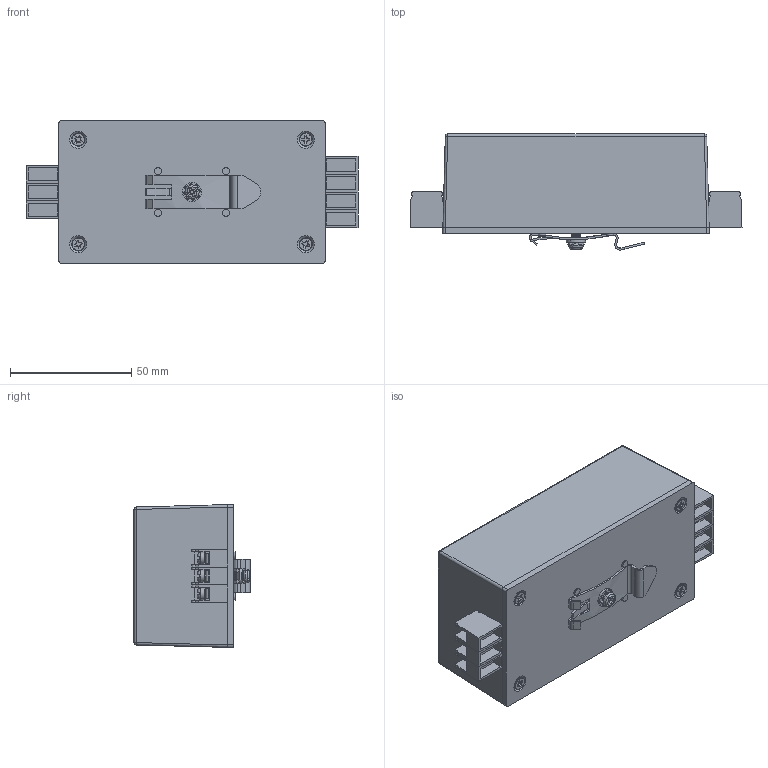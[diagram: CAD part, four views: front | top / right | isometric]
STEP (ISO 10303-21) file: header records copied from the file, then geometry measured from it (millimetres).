
FILE_DESCRIPTION (( 'STEP AP203' ), '1' );
FILE_NAME ('CFM40C 60C 101C-1130930.STEP', '2024-09-30T03:03:43', ( 'cincon' ), ( '' ), 'SwSTEP 2.0', 'SolidWorks 2020', '' );
FILE_SCHEMA (( 'CONFIG_CONTROL_DESIGN' ));
Length unit declared in the file: millimetre
Products named in the file (12): GreenLED; CFM40 60C CASE; 端子台3PIN; M3.5x6mm圓頭十字螺絲+齒型華司; 端子台4PIN; CFM40 60DR塑膠殼 六角銅柱M3.5x2.5mm; 端子台; CFM40C 60C 101C-1130930; CFM40 60DR塑膠殼DIN鋁板; M3x8L螺絲示意圖(頭徑5.2-東莞 立君; CFM40 60DR塑膠殼DIN鋁板(M-B084-01-J)G6611151212; MPE150-60-ACS24掛鉤
Assembly tree (20 placements, depth 3):
  CFM40C 60C 101C-1130930
    CFM40 60C CASE
    CFM40 60DR塑膠殼DIN鋁板
      CFM40 60DR塑膠殼DIN鋁板(M-B084-01-J)G6611151212
      CFM40 60DR塑膠殼 六角銅柱M3.5x2.5mm
    MPE150-60-ACS24掛鉤
    M3.5x6mm圓頭十字螺絲+齒型華司
    M3x8L螺絲示意圖(頭徑5.2-東莞 立君  x4
    端子台3PIN
      端子台  x3
    端子台4PIN
      端子台  x4
    GreenLED
Bounding box: 137.15 x 47.92 x 59 mm (x, y, z)
Volume: 59055.1 mm3; surface area: 62698.5 mm2
Topology: 18 solids, 18 shells, 1185 faces, 3179 edges, 2059 vertices
Faces by surface type: plane 677, cylinder 380, bspline 45, cone 42, torus 36, sphere 5
Entity records: 23584 total; most frequent: CARTESIAN_POINT 8030, ORIENTED_EDGE 3102, DIRECTION 2760, EDGE_CURVE 1551, VERTEX_POINT 1010, VECTOR 958, LINE 958, AXIS2_PLACEMENT_3D 901
